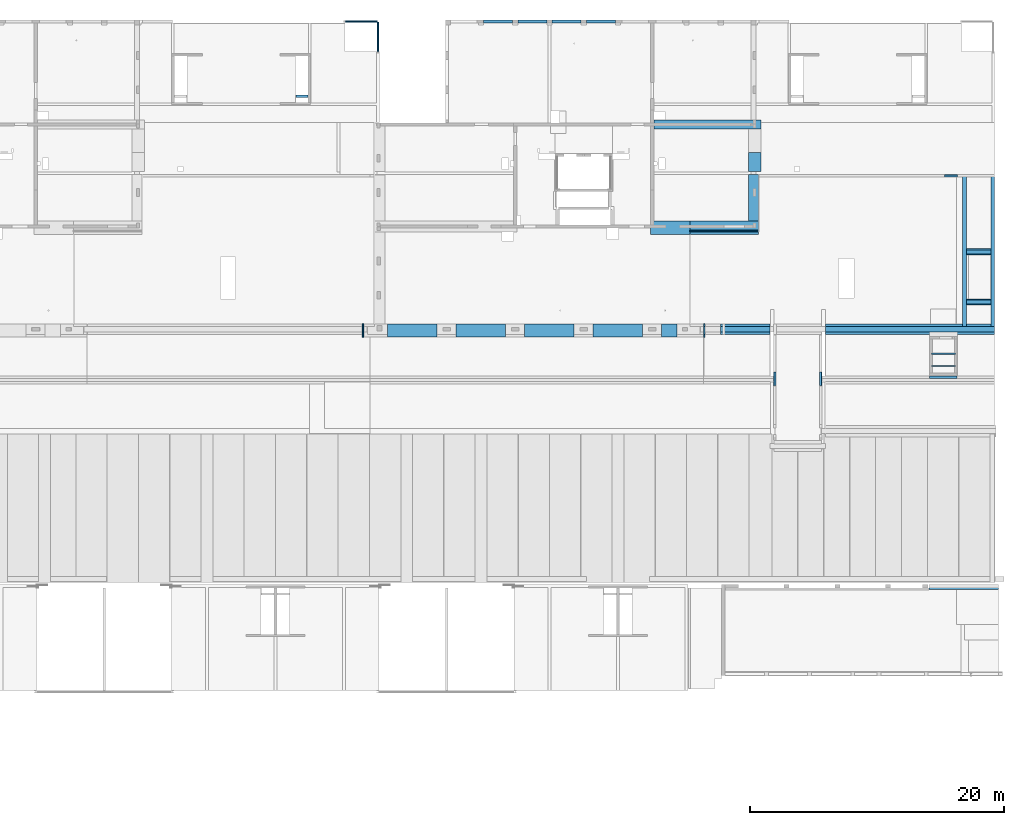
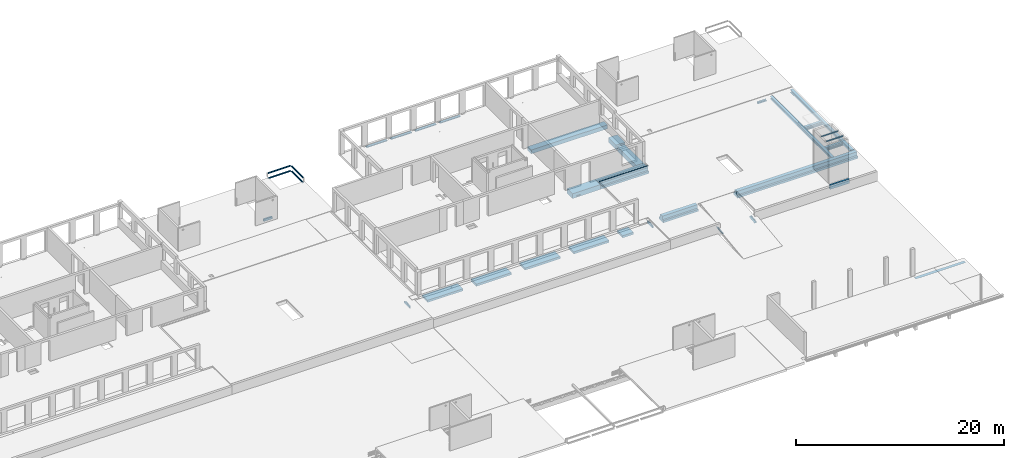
# One storey, part 13 of 36: 34 beams.
"""IFC2X3 building model written with IfcOpenShell, lengths in millimetres."""

from ifc_helpers import new_model, entity, si_unit, converted_unit, derived_unit, direction, frame, frame_2d, origin, origin_2d_with_axis, place, context, subcontext, project, spatial, polyline, circle_curve, parameter, trimmed, segment, composite_curve, rectangle, i_section, outline, extrude, boolean, source, transform, mapped, material, type_object, type_shapes, element, save


model = new_model("IFC2X3")

# Units and contexts
model_context = context("Model", 3, precision=0.01, world=origin(), true_north=direction((6.12303176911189e-17, 1.0)))
body_context = subcontext(model_context, "Body", "Model", "MODEL_VIEW")
ifc_project = project(units=[si_unit("LENGTHUNIT", "METRE", prefix="MILLI"), si_unit("AREAUNIT", "SQUARE_METRE"), si_unit("VOLUMEUNIT", "CUBIC_METRE"), converted_unit("PLANEANGLEUNIT", "DEGREE", entity("IfcRatioMeasure", 0.0174532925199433), si_unit("PLANEANGLEUNIT", "RADIAN"), dimensions=[0, 0, 0, 0, 0, 0, 0]), si_unit("MASSUNIT", "GRAM", prefix="KILO"), derived_unit("MASSDENSITYUNIT", [(si_unit("MASSUNIT", "GRAM", prefix="KILO"), 1), (si_unit("LENGTHUNIT", "METRE"), -3)]), si_unit("TIMEUNIT", "SECOND"), si_unit("FREQUENCYUNIT", "HERTZ"), si_unit("THERMODYNAMICTEMPERATUREUNIT", "DEGREE_CELSIUS"), derived_unit("THERMALTRANSMITTANCEUNIT", [(si_unit("MASSUNIT", "GRAM", prefix="KILO"), 1), (si_unit("THERMODYNAMICTEMPERATUREUNIT", "KELVIN"), -1), (si_unit("TIMEUNIT", "SECOND"), -3)]), derived_unit("VOLUMETRICFLOWRATEUNIT", [(si_unit("LENGTHUNIT", "METRE"), 3), (si_unit("TIMEUNIT", "SECOND"), -1)]), si_unit("ELECTRICCURRENTUNIT", "AMPERE"), si_unit("ELECTRICVOLTAGEUNIT", "VOLT"), si_unit("POWERUNIT", "WATT"), si_unit("FORCEUNIT", "NEWTON", prefix="KILO"), si_unit("ILLUMINANCEUNIT", "LUX"), si_unit("LUMINOUSFLUXUNIT", "LUMEN"), si_unit("LUMINOUSINTENSITYUNIT", "CANDELA"), derived_unit("USERDEFINED", [(si_unit("MASSUNIT", "GRAM", prefix="KILO"), -1), (si_unit("LENGTHUNIT", "METRE"), -2), (si_unit("TIMEUNIT", "SECOND"), 3), (si_unit("LUMINOUSFLUXUNIT", "LUMEN"), 1)]), derived_unit("LINEARVELOCITYUNIT", [(si_unit("LENGTHUNIT", "METRE"), 1), (si_unit("TIMEUNIT", "SECOND"), -1)]), si_unit("PRESSUREUNIT", "PASCAL"), derived_unit("USERDEFINED", [(si_unit("LENGTHUNIT", "METRE"), -2), (si_unit("MASSUNIT", "GRAM", prefix="KILO"), 1), (si_unit("TIMEUNIT", "SECOND"), -2)])], contexts=[model_context])

# Site, building, storey
site_placement = place(None, origin())
site = spatial("IfcSite", under=ifc_project, at=site_placement, Name="Default", CompositionType="ELEMENT")
building_placement = place(site_placement, origin())
building = spatial("IfcBuilding", under=site, at=building_placement, Name="niet gebruiken", CompositionType="ELEMENT")
storey_placement = place(building_placement, frame((0.0, 0.0, 12600.0)))
storey = spatial("IfcBuildingStorey", under=building, at=storey_placement, Name="04 vierde verdieping", CompositionType="ELEMENT", Elevation=12600.0)

# Beams
ifc_material_1 = material(Name="NLRS_f2_beton prefab")
beam_type_1 = type_object("IfcBeamType", Name="NLRS_28.11_SF_WPB_prefabbeton balk dubbele sponning_gen:800x660/200x410/200x410", PredefinedType="BEAM")
beam_1_placement = place(storey_placement, frame((110845.0, 28881.0, -240.0)))
element("IfcBeam", 1, at=beam_1_placement, inside=storey, type_object=beam_type_1, material=ifc_material_1, Name="NLRS_28.11_SF_WPB_prefabbeton balk dubbele sponning_gen:800x660/200x410/200x410", ObjectType="NLRS_28.11_SF_WPB_prefabbeton balk dubbele sponning_gen:800x660/200x410/200x410", context=body_context, shape_type="SweptSolid", body=[
    extrude(outline(polyline([(40.0, -400.0), (290.0, -400.0), (290.0, 400.0), (40.0, 400.0), (40.0, 200.0), (-370.0, 200.0), (-370.0, -200.0), (40.0, -200.0), (40.0, -400.0)])), frame((0.0, 0.0, -370.0), z_axis=(1.0, 0.0, 0.0), x_axis=(0.0, 0.0, -1.0)), (0.0, 0.0, 1.0), 13355.0),
])
beam_2_placement = place(storey_placement, frame((102600.0, 28881.0, -240.0)))
element("IfcBeam", 2, at=beam_2_placement, inside=storey, type_object=beam_type_1, material=ifc_material_1, Name="NLRS_28.11_SF_WPB_prefabbeton balk dubbele sponning_gen:800x660/200x410/200x410", ObjectType="NLRS_28.11_SF_WPB_prefabbeton balk dubbele sponning_gen:800x660/200x410/200x410", context=body_context, shape_type="SweptSolid", body=[
    extrude(outline(polyline([(40.0, -400.0), (290.0, -400.0), (290.0, 400.0), (40.0, 400.0), (40.0, 200.0), (-370.0, 200.0), (-370.0, -200.0), (40.0, -200.0), (40.0, -400.0)])), frame((0.0, 0.0, -370.0), z_axis=(1.0, 0.0, 0.0), x_axis=(0.0, 0.0, -1.0)), (0.0, 0.0, 1.0), 3900.00000000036),
])
ifc_material_2 = material(Name="NLRS_f2_beton ihwg")
beam_type_2 = type_object("IfcBeamType", Name="NLRS_28.11_SF_WPB_betonbalk ihwg enkele sponning_gen:1050x560/200x310", PredefinedType="BEAM")
beam_3_placement = place(storey_placement, frame((100175.0, 36881.0, -340.0)))
element("IfcBeam", 3, at=beam_3_placement, inside=storey, type_object=beam_type_2, material=ifc_material_2, Name="NLRS_28.11_SF_WPB_betonbalk ihwg enkele sponning_gen:1050x560/200x310", ObjectType="NLRS_28.11_SF_WPB_betonbalk ihwg enkele sponning_gen:1050x560/200x310", context=body_context, shape_type="SweptSolid", body=[
    extrude(outline(polyline([(20.0, -416.666666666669), (270.0, -416.666666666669), (270.0, 633.33333333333), (-290.0, 633.333333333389), (-290.0, -216.666666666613), (20.0, -216.666666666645), (20.0, -416.666666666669)])), frame((0.0, -108.333333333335, -290.0), z_axis=(1.0, 0.0, 0.0), x_axis=(0.0, 0.0, -1.0)), (0.0, 0.0, 1.0), 5399.99999999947),
])
beam_4_placement = place(storey_placement, frame((74460.0, 28781.0, -340.0), z_axis=(0.0, 0.0, 1.0), x_axis=(-1.0, 0.0, 0.0)))
element("IfcBeam", 4, at=beam_4_placement, inside=storey, type_object=beam_type_2, material=ifc_material_2, Name="NLRS_28.11_SF_WPB_betonbalk ihwg enkele sponning_gen:1050x560/200x310", ObjectType="NLRS_28.11_SF_WPB_betonbalk ihwg enkele sponning_gen:1050x560/200x310", context=body_context, shape_type="SweptSolid", body=[
    extrude(outline(polyline([(-43.7491141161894, -480.000219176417), (206.250885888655, -480.000219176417), (206.250885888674, 569.999780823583), (-43.7491141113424, 569.999780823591), (-43.7491141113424, 165.001534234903), (-118.749114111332, 165.001534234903), (-118.74911411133, -255.000219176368), (-43.7491141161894, -255.000219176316), (-43.7491141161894, -480.000219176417)])), frame((0.0, -44.9997808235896, -353.749114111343), z_axis=(1.0, 0.0, 0.0), x_axis=(0.0, 0.0, -1.0)), (0.0, 0.0, 1.0), 100.000000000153),
])
beam_5_placement = place(storey_placement, frame((101360.0, 28781.0, -340.0), z_axis=(0.0, 0.0, 1.0), x_axis=(-1.0, 0.0, 0.0)))
element("IfcBeam", 5, at=beam_5_placement, inside=storey, type_object=beam_type_2, material=ifc_material_2, Name="NLRS_28.11_SF_WPB_betonbalk ihwg enkele sponning_gen:1050x560/200x310", ObjectType="NLRS_28.11_SF_WPB_betonbalk ihwg enkele sponning_gen:1050x560/200x310", context=body_context, shape_type="SweptSolid", body=[
    extrude(outline(polyline([(-43.7500000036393, -531.250000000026), (206.250000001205, -531.250000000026), (206.250000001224, 518.749999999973), (-43.7499999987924, 518.749999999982), (-43.7499999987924, 318.749999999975), (-118.749999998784, 318.749999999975), (-118.749999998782, -306.249999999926), (-43.7500000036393, -306.249999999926), (-43.7500000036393, -531.250000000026)])), frame((0.0, 6.25000000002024, -353.749999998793), z_axis=(1.0, 0.0, 0.0), x_axis=(0.0, 0.0, -1.0)), (0.0, 0.0, 1.0), 100.000000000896),
])
beam_type_3 = type_object("IfcBeamType", Name="NLRS_28.11_SF_WPB_betonbalk ihwg recht_gen:125x250", PredefinedType="BEAM")
beam_6_placement = place(storey_placement, frame((100175.0, 36618.5, -90.0)))
element("IfcBeam", 6, at=beam_6_placement, inside=storey, type_object=beam_type_3, material=ifc_material_2, Name="NLRS_28.11_SF_WPB_betonbalk ihwg recht_gen:125x250", ObjectType="NLRS_28.11_SF_WPB_betonbalk ihwg recht_gen:125x250", context=body_context, shape_type="SweptSolid", body=[
    extrude(rectangle(XDim=189.999999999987, YDim=125.000000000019, at=frame_2d((-1.19158016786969e-11, 4.33075797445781e-12), x_axis=(1.0, 0.0))), frame((0.0, 0.0, -155.0), z_axis=(1.0, 0.0, 0.0), x_axis=(0.0, 0.0, -1.0)), (0.0, 0.0, 1.0), 5399.99999999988),
])
beam_type_4 = type_object("IfcBeamType", Name="NLRS_28.11_SF_WPB_betonbalk ihwg recht_gen:700x450", PredefinedType="BEAM")
beam_7_placement = place(storey_placement, frame((97200.0, 45031.0, -340.0)))
element("IfcBeam", 7, at=beam_7_placement, inside=storey, type_object=beam_type_4, material=ifc_material_2, Name="NLRS_28.11_SF_WPB_betonbalk ihwg recht_gen:700x450", ObjectType="NLRS_28.11_SF_WPB_betonbalk ihwg recht_gen:700x450", context=body_context, shape_type="SweptSolid", body=[
    extrude(rectangle(XDim=449.999999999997, YDim=700.000000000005, at=frame_2d((0.0, 2.16573425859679e-11), x_axis=(1.0, 0.0))), frame((125.0, 0.0, -225.0), z_axis=(1.0, 0.0, 0.0), x_axis=(0.0, 0.0, -1.0)), (0.0, 0.0, 1.0), 8450.00000000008),
])
beam_type_5 = type_object("IfcBeamType", Name="NLRS_28.11_SF_WPB_betonbalk ihwg recht_gen:1050x560", PredefinedType="BEAM")
beam_8_placement = place(storey_placement, frame((97075.0, 36881.0, -340.0)))
element("IfcBeam", 8, at=beam_8_placement, inside=storey, type_object=beam_type_5, material=ifc_material_2, Name="NLRS_28.11_SF_WPB_betonbalk ihwg recht_gen:1050x560", ObjectType="NLRS_28.11_SF_WPB_betonbalk ihwg recht_gen:1050x560", context=body_context, shape_type="CSG", body=[
    boolean("DIFFERENCE", extrude(rectangle(XDim=559.999999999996, YDim=1050.0, at=frame_2d((6.48014975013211e-12, 1.08002495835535e-12), x_axis=(0.0, 1.0))), frame((0.0, 0.0, -280.0), z_axis=(1.0, 0.0, 0.0), x_axis=(0.0, 1.0, 0.0)), (0.0, 0.0, 1.0), 3099.99999999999), extrude(rectangle(XDim=100.000000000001, YDim=440.000000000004, at=frame_2d((-1.08357767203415e-12, 0.0), x_axis=(1.0, 0.0))), frame((695.0, -525.0, -400.0), z_axis=(0.0, 1.0, 0.0), x_axis=(0.0, 0.0, 1.0)), (0.0, 0.0, 1.0), 1050.0)),
])
beam_type_6 = type_object("IfcBeamType", Name="800x810", PredefinedType="BEAM", material=ifc_material_2)
beam_9_placement = place(storey_placement, frame((105175.0, 37406.0, -90.0), z_axis=(0.0, 0.0, 1.0), x_axis=(0.0, 1.0, 0.0)))
element("IfcBeam", 9, at=beam_9_placement, inside=storey, type_object=beam_type_6, material=ifc_material_2, Name="NLRS_28.11_SF_WPB_betonbalk ihwg recht_gen:800x810", ObjectType="NLRS_28.11_SF_WPB_betonbalk ihwg recht_gen:800x810", context=body_context, shape_type="SweptSolid", body=[
    extrude(rectangle(XDim=559.999999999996, YDim=800.000000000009, at=frame_2d((1.08002495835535e-12, -8.66862137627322e-12), x_axis=(1.0, 0.0))), frame((0.0, 0.0, -530.0), z_axis=(1.0, 0.0, 0.0), x_axis=(0.0, 0.0, -1.0)), (0.0, 0.0, 1.0), 3654.99999999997),
])
beam_type_7 = type_object("IfcBeamType", Name="NLRS_28.11_SF_WPB_betonbalk ihwg recht_gen:1000x560", PredefinedType="BEAM")
beam_10_placement = place(storey_placement, frame((105275.0, 41311.0, -340.0), z_axis=(0.0, 0.0, 1.0), x_axis=(0.0, 1.0, 0.0)))
element("IfcBeam", 10, at=beam_10_placement, inside=storey, type_object=beam_type_7, material=ifc_material_2, Name="NLRS_28.11_SF_WPB_betonbalk ihwg recht_gen:1000x560", ObjectType="NLRS_28.11_SF_WPB_betonbalk ihwg recht_gen:1000x560", context=body_context, shape_type="SweptSolid", body=[
    extrude(rectangle(XDim=559.999999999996, YDim=999.999999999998, at=frame_2d((-1.08002495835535e-12, -8.66862137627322e-12), x_axis=(1.0, 0.0))), frame((0.0, 0.0, -280.0), z_axis=(1.0, 0.0, 0.0), x_axis=(0.0, 0.0, -1.0)), (0.0, 0.0, 1.0), 1495.00000000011),
])
ifc_material_3 = material(Name="NLRS_h2_staal")
beam_type_8 = type_object("IfcBeamType", Name="NLRS_28.11_SF_WPB_stalen ligger hoekprofiel gelijkzijdig_gen:ligger gelijzijdig hoekprofiel LEQU_200x200x15", PredefinedType="BEAM")
beam_11_placement = place(storey_placement, frame((120225.0, 40968.4999999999, -460.0)))
element("IfcBeam", 11, at=beam_11_placement, inside=storey, type_object=beam_type_8, material=ifc_material_3, Name="NLRS_28.11_SF_WPB_stalen ligger hoekprofiel gelijkzijdig_gen:ligger gelijzijdig hoekprofiel LEQU_200x200x15", ObjectType="NLRS_28.11_SF_WPB_stalen ligger hoekprofiel gelijkzijdig_gen:ligger gelijzijdig hoekprofiel LEQU_200x200x15", context=body_context, shape_type="SweptSolid", body=[
    extrude(outline(composite_curve([segment(polyline([(66.3333333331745, -126.666666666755), (73.3333333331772, -126.666666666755)]), True, "CONTINUOUS"), segment(polyline([(73.3333333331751, -126.666666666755), (73.3333333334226, 73.3333333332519)]), True, "CONTINUOUS"), segment(polyline([(73.3333333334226, 73.3333333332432), (-126.666666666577, 73.3333333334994)]), True, "CONTINUOUS"), segment(polyline([(-126.666666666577, 73.3333333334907), (-126.666666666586, 66.3333333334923)]), True, "CONTINUOUS"), segment(trimmed(circle_curve(frame_2d((-118.666666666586, 66.3333333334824), x_axis=(-1.0, 0.0)), 7.9999999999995), [parameter(0.0)], [parameter(90.0000000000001)], True, "PARAMETER"), True, "CONTINUOUS"), segment(polyline([(-118.666666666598, 58.3333333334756), (42.3333333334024, 58.333333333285)]), True, "CONTINUOUS"), segment(trimmed(circle_curve(frame_2d((42.3333333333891, 42.3333333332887), x_axis=(0.0, 1.0)), 15.9999999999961), [parameter(269.999999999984)], [parameter(0.0)], True, "PARAMETER"), False, "CONTINUOUS"), segment(polyline([(58.3333333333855, 42.3333333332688), (58.3333333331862, -118.666666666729)]), True, "CONTINUOUS"), segment(trimmed(circle_curve(frame_2d((66.3333333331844, -118.666666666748), x_axis=(-1.0, 0.0)), 7.99999999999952), [parameter(0.0)], [parameter(90.0000000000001)], True, "PARAMETER"), True, "CONTINUOUS")], self_intersect=False)), frame((0.0, 19.1666666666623, -126.666666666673), z_axis=(1.0, 0.0, 0.0), x_axis=(0.0, 0.0, -1.0)), (0.0, 0.0, 1.0), 1025.00000000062),
])
beam_type_9 = type_object("IfcBeamType", Name="ligger stripstaal RECT_355x12", PredefinedType="BEAM", material=ifc_material_3)
shared_shape_1 = source(origin(), body_context, "Body", "SweptSolid", [
    extrude(rectangle(XDim=5509.99999999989, YDim=355.0, at=origin_2d_with_axis()), frame((0.0, 0.0, -6.0), z_axis=(0.0, 0.0, 1.0), x_axis=(-1.0, 0.0, 0.0)), (0.0, 0.0, 1.0), 12.0),
    extrude(rectangle(XDim=5509.99999999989, YDim=355.0, at=origin_2d_with_axis()), frame((0.0, 0.0, -6.0), z_axis=(0.0, 0.0, 1.0), x_axis=(-1.0, 0.0, 0.0)), (0.0, 0.0, 1.0), 12.0),
])
type_shapes(beam_type_9, [shared_shape_1])
beam_12_placement = place(storey_placement, frame((121755.0, 8553.49999999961, -1026.0)))
element("IfcBeam", 12, at=beam_12_placement, inside=storey, type_object=beam_type_9, material=ifc_material_3, Name="NLRS_28.11_SF_WPB_stalen ligger stripstaal_gen:ligger stripstaal RECT_355x12", ObjectType="ligger stripstaal RECT_355x12", context=body_context, shape_type="MappedRepresentation", body=[
    mapped(shared_shape_1, transform((0.0, 0.0, 0.0), scale=1.0)),
])
beam_type_10 = type_object("IfcBeamType", Name="NLRS_28.11_SF_WPB_betonbalk ihwg recht_gen:180x250", PredefinedType="BEAM")
beam_13_placement = place(storey_placement, frame((69105.0, 47236.0, -90.0)))
element("IfcBeam", 13, at=beam_13_placement, inside=storey, type_object=beam_type_10, material=ifc_material_2, Name="NLRS_28.11_SF_WPB_betonbalk ihwg recht_gen:180x250", ObjectType="NLRS_28.11_SF_WPB_betonbalk ihwg recht_gen:180x250", context=body_context, shape_type="SweptSolid", body=[
    extrude(rectangle(XDim=249.999999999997, YDim=180.000000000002, at=frame_2d((1.08002495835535e-12, -4.33431068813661e-12), x_axis=(1.0, 0.0))), frame((0.0, 0.0, -125.0), z_axis=(1.0, 0.0, 0.0), x_axis=(0.0, 0.0, -1.0)), (0.0, 0.0, 1.0), 970.000000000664),
])
beam_type_11 = type_object("IfcBeamType", Name="250x100", PredefinedType="BEAM", material=ifc_material_2)
shared_shape_2 = source(origin(), body_context, "Body", "SweptSolid", [
    extrude(rectangle(XDim=2289.99999999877, YDim=249.999999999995, at=frame_2d((-8.64019966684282e-12, 4.33431068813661e-12), x_axis=(1.0, 0.0))), frame((85050.0, 53131.0, 12160.0)), (0.0, 0.0, 1.0), 100.000063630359),
    extrude(rectangle(XDim=2290.00000000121, YDim=249.999999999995, at=frame_2d((0.0, -4.33431068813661e-12), x_axis=(1.0, 0.0))), frame((93150.0, 53131.0, 12160.0), z_axis=(0.0, 0.0, 1.0), x_axis=(-1.0, 0.0, 0.0)), (0.0, 0.0, 1.0), 100.000063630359),
    extrude(rectangle(XDim=2289.99999999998, YDim=249.999999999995, at=frame_2d((8.64019966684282e-12, -4.33431068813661e-12), x_axis=(1.0, 0.0))), frame((90450.0, 53131.0, 12160.0), z_axis=(0.0, 0.0, 1.0), x_axis=(-1.0, 0.0, 0.0)), (0.0, 0.0, 1.0), 100.000063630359),
    extrude(rectangle(XDim=2290.0, YDim=249.999999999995, at=frame_2d((0.0, 4.33431068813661e-12), x_axis=(1.0, 0.0))), frame((87750.0, 53131.0, 12160.0), z_axis=(0.0, 0.0, 1.0), x_axis=(-1.0, 0.0, 0.0)), (0.0, 0.0, 1.0), 100.000063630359),
])
type_shapes(beam_type_11, [shared_shape_2])
beam_14_placement = place(storey_placement, frame((0.0, 0.0, -12600.0)))
element("IfcBeam", 14, at=beam_14_placement, inside=storey, type_object=beam_type_11, material=ifc_material_2, Name="NLRS_28.11_SF_WPB_betonbalk ihwg recht_gen:250x100", ObjectType="250x100", context=body_context, shape_type="MappedRepresentation", body=[
    mapped(shared_shape_2, transform((0.0, 0.0, 0.0), scale=1.0)),
])
beam_type_12 = type_object("IfcBeamType", Name="NLRS_28.11_SF_WPB_stalen ligger HEA_gen:ligger HEA 120", PredefinedType="BEAM")
beam_15_placement = place(storey_placement, frame((73000.0, 53188.0, -260.0)))
element("IfcBeam", 15, at=beam_15_placement, inside=storey, type_object=beam_type_12, material=ifc_material_3, Name="NLRS_28.11_SF_WPB_stalen ligger HEA_gen:ligger HEA 120", ObjectType="NLRS_28.11_SF_WPB_stalen ligger HEA_gen:ligger HEA 120", context=body_context, shape_type="SweptSolid", body=[
    extrude(i_section(OverallWidth=119.999999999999, OverallDepth=114.0, WebThickness=5.00000000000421, FlangeThickness=8.00000000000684, FilletRadius=11.9999999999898, at=frame_2d((-2.16360263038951e-12, -1.29922739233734e-11), x_axis=(1.0, 0.0))), frame((0.0, -57.0, 0.0), z_axis=(1.0, 0.0, 0.0), x_axis=(0.0, 0.0, -1.0)), (0.0, 0.0, 1.0), 2515.00000000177),
])
beam_16_placement = place(storey_placement, frame((75518.0, 50755.8950183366, -260.0), z_axis=(0.0, 0.0, 1.0), x_axis=(0.0, 1.0, 0.0)))
element("IfcBeam", 16, at=beam_16_placement, inside=storey, type_object=beam_type_12, material=ifc_material_3, Name="NLRS_28.11_SF_WPB_stalen ligger HEA_gen:ligger HEA 120", ObjectType="NLRS_28.11_SF_WPB_stalen ligger HEA_gen:ligger HEA 120", context=body_context, shape_type="SweptSolid", body=[
    extrude(i_section(OverallWidth=119.999999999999, OverallDepth=114.0, WebThickness=4.99999999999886, FlangeThickness=7.99999999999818, FilletRadius=11.9999999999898, at=frame_2d((-2.16715534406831e-12, -4.33431068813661e-12), x_axis=(1.0, 0.0))), frame((0.0, -57.0, 0.0), z_axis=(1.0, 0.0, 0.0), x_axis=(0.0, 0.0, -1.0)), (0.0, 0.0, 1.0), 2318.10498166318),
])
beam_17_placement = place(storey_placement, frame((75518.0, 50766.0007019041, 340.0), z_axis=(0.0, 0.0, 1.0), x_axis=(0.0, 1.0, 0.0)))
element("IfcBeam", 17, at=beam_17_placement, inside=storey, type_object=beam_type_12, material=ifc_material_3, Name="NLRS_28.11_SF_WPB_stalen ligger HEA_gen:ligger HEA 120", ObjectType="NLRS_28.11_SF_WPB_stalen ligger HEA_gen:ligger HEA 120", context=body_context, shape_type="SweptSolid", body=[
    extrude(i_section(OverallWidth=119.999999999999, OverallDepth=114.0, WebThickness=4.99999999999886, FlangeThickness=7.99999999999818, FilletRadius=11.9999999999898, at=frame_2d((0.0, -4.33431068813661e-12), x_axis=(1.0, 0.0))), frame((0.0, -57.0, 0.0), z_axis=(1.0, 0.0, 0.0), x_axis=(0.0, 0.0, -1.0)), (0.0, 0.0, 1.0), 2307.99929809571),
])
beam_18_placement = place(storey_placement, frame((73000.0, 53188.0, 340.0)))
element("IfcBeam", 18, at=beam_18_placement, inside=storey, type_object=beam_type_12, material=ifc_material_3, Name="NLRS_28.11_SF_WPB_stalen ligger HEA_gen:ligger HEA 120", ObjectType="NLRS_28.11_SF_WPB_stalen ligger HEA_gen:ligger HEA 120", context=body_context, shape_type="SweptSolid", body=[
    extrude(i_section(OverallWidth=119.999999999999, OverallDepth=114.0, WebThickness=5.00000000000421, FlangeThickness=8.00000000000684, FilletRadius=11.9999999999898, at=frame_2d((0.0, -4.33075797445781e-12), x_axis=(1.0, 0.0))), frame((0.0, -57.0, 0.0), z_axis=(1.0, 0.0, 0.0), x_axis=(0.0, 0.0, -1.0)), (0.0, 0.0, 1.0), 2515.00000000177),
])
beam_type_13 = type_object("IfcBeamType", Name="NLRS_28.11_SF_WPB_stalen ligger HEB_gen:ligger HEB 100", PredefinedType="BEAM")
beam_19_placement = place(storey_placement, frame((119200.0, 26940.0, 4290.0)))
element("IfcBeam", 19, at=beam_19_placement, inside=storey, type_object=beam_type_13, material=ifc_material_3, Name="NLRS_28.11_SF_WPB_stalen ligger HEB_gen:ligger HEB 100", ObjectType="NLRS_28.11_SF_WPB_stalen ligger HEB_gen:ligger HEB 100", context=body_context, shape_type="SweptSolid", body=[
    extrude(i_section(OverallWidth=100.000000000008, OverallDepth=100.000000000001, WebThickness=5.99999999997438, FlangeThickness=10.0000000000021, FilletRadius=12.0000000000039, at=frame_2d((1.08357767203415e-12, 4.33431068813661e-12), x_axis=(0.0, 1.0))), frame((0.0, 0.0, 50.0), z_axis=(1.0, 0.0, 0.0), x_axis=(0.0, 0.0, -1.0)), (0.0, 0.0, 1.0), 1900.0),
])
beam_20_placement = place(storey_placement, frame((119200.0, 25990.0, 4290.0)))
element("IfcBeam", 20, at=beam_20_placement, inside=storey, type_object=beam_type_13, material=ifc_material_3, Name="NLRS_28.11_SF_WPB_stalen ligger HEB_gen:ligger HEB 100", ObjectType="NLRS_28.11_SF_WPB_stalen ligger HEB_gen:ligger HEB 100", context=body_context, shape_type="SweptSolid", body=[
    extrude(i_section(OverallWidth=100.000000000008, OverallDepth=100.000000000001, WebThickness=5.99999999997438, FlangeThickness=10.0000000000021, FilletRadius=12.0000000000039, at=frame_2d((1.08357767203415e-12, 0.0), x_axis=(0.0, 1.0))), frame((0.0, 0.0, 50.0), z_axis=(1.0, 0.0, 0.0), x_axis=(0.0, 0.0, -1.0)), (0.0, 0.0, 1.0), 1900.0),
])
beam_type_14 = type_object("IfcBeamType", Name="NLRS_28.11_SF_WPB_betonbalk ihwg recht_gen:1050x250", PredefinedType="BEAM")
beam_21_placement = place(storey_placement, frame((97950.0, 28781.0, -650.0)))
element("IfcBeam", 21, at=beam_21_placement, inside=storey, type_object=beam_type_14, material=ifc_material_2, Name="NLRS_28.11_SF_WPB_betonbalk ihwg recht_gen:1050x250", ObjectType="NLRS_28.11_SF_WPB_betonbalk ihwg recht_gen:1050x250", context=body_context, shape_type="SweptSolid", body=[
    extrude(rectangle(XDim=249.999999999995, YDim=1050.0, at=frame_2d((1.08713038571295e-12, 0.0), x_axis=(1.0, 0.0))), frame((0.0, 0.0, -125.0), z_axis=(1.0, 0.0, 0.0), x_axis=(0.0, 0.0, -1.0)), (0.0, 0.0, 1.0), 1200.00000000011),
])
for number, where, name in (
    (22, (92550.0, 28781.0, -650.0), "NLRS_28.11_SF_WPB_betonbalk ihwg recht_gen:1050x250"),
    (23, (87150.0, 28781.0, -650.0), "NLRS_28.11_SF_WPB_betonbalk ihwg recht_gen:1050x250"),
    (24, (81750.0, 28781.0, -650.0), "NLRS_28.11_SF_WPB_betonbalk ihwg recht_gen:1050x250"),
):
    element("IfcBeam", number, at=place(storey_placement, frame(where)), inside=storey, type_object=beam_type_14, material=ifc_material_2, Name=name, ObjectType="NLRS_28.11_SF_WPB_betonbalk ihwg recht_gen:1050x250", context=body_context, shape_type="SweptSolid", body=[
        extrude(rectangle(XDim=249.999999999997, YDim=1050.0, at=frame_2d((1.08002495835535e-12, 1.08002495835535e-11), x_axis=(1.0, 0.0))), frame((0.0, 0.0, -125.0), z_axis=(1.0, 0.0, 0.0), x_axis=(0.0, 0.0, -1.0)), (0.0, 0.0, 1.0), 3900.0),
    ])
beam_22_placement = place(storey_placement, frame((76350.0, 28781.0, -650.0)))
element("IfcBeam", 25, at=beam_22_placement, inside=storey, type_object=beam_type_14, material=ifc_material_2, Name="NLRS_28.11_SF_WPB_betonbalk ihwg recht_gen:1050x250", ObjectType="NLRS_28.11_SF_WPB_betonbalk ihwg recht_gen:1050x250", context=body_context, shape_type="SweptSolid", body=[
    extrude(rectangle(XDim=249.999999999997, YDim=1050.0, at=frame_2d((1.08002495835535e-12, 1.08002495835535e-11), x_axis=(1.0, 0.0))), frame((0.0, 0.0, -125.0), z_axis=(1.0, 0.0, 0.0), x_axis=(0.0, 0.0, -1.0)), (0.0, 0.0, 1.0), 3900.00000000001),
])
beam_type_15 = type_object("IfcBeamType", Name="NLRS_28.11_SF_WPB_prefabbeton balk recht_gen:200x490", PredefinedType="BEAM")
beam_23_placement = place(storey_placement, frame((119075.0, 25101.0, -160.0)))
element("IfcBeam", 26, at=beam_23_placement, inside=storey, type_object=beam_type_15, material=ifc_material_1, Name="NLRS_28.11_SF_WPB_prefabbeton balk recht_gen:200x490", ObjectType="NLRS_28.11_SF_WPB_prefabbeton balk recht_gen:200x490", context=body_context, shape_type="SweptSolid", body=[
    extrude(rectangle(XDim=489.000000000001, YDim=200.000000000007, at=frame_2d((0.0, 4.33431068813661e-12), x_axis=(1.0, 0.0))), frame((0.0, 0.0, -245.499999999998), z_axis=(1.0, 0.0, 0.0), x_axis=(0.0, 0.0, -1.0)), (0.0, 0.0, 1.0), 2150.0),
])
beam_type_16 = type_object("IfcBeamType", Name="NLRS_28.11_SF_WPB_stalen ligger HEA_gen:ligger HEA 320", PredefinedType="BEAM")
beam_24_placement = place(storey_placement, frame((121970.0, 34975.0, -335.0)))
element("IfcBeam", 27, at=beam_24_placement, inside=storey, type_object=beam_type_16, material=ifc_material_3, Name="NLRS_28.11_SF_WPB_stalen ligger HEA_gen:ligger HEA 320", ObjectType="NLRS_28.11_SF_WPB_stalen ligger HEA_gen:ligger HEA 320", context=body_context, shape_type="SweptSolid", body=[
    extrude(i_section(OverallWidth=300.000000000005, OverallDepth=310.000000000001, WebThickness=8.99999999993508, FlangeThickness=15.5000000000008, FilletRadius=26.9999999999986, at=frame_2d((1.08002495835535e-12, -4.33431068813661e-12), x_axis=(0.0, 1.0))), frame((0.0, 0.0, -155.0), z_axis=(1.0, 0.0, 0.0), x_axis=(0.0, 0.0, -1.0)), (0.0, 0.0, 1.0), 1929.9999999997),
])
beam_25_placement = place(storey_placement, frame((121970.0, 31025.0, -335.0)))
element("IfcBeam", 28, at=beam_25_placement, inside=storey, type_object=beam_type_16, material=ifc_material_3, Name="NLRS_28.11_SF_WPB_stalen ligger HEA_gen:ligger HEA 320", ObjectType="NLRS_28.11_SF_WPB_stalen ligger HEA_gen:ligger HEA 320", context=body_context, shape_type="SweptSolid", body=[
    extrude(i_section(OverallWidth=300.000000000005, OverallDepth=310.000000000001, WebThickness=8.99999999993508, FlangeThickness=15.5000000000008, FilletRadius=26.9999999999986, at=frame_2d((1.08002495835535e-12, 0.0), x_axis=(0.0, 1.0))), frame((0.0, 0.0, -155.0), z_axis=(1.0, 0.0, 0.0), x_axis=(0.0, 0.0, -1.0)), (0.0, 0.0, 1.0), 1929.9999999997),
])
beam_26_placement = place(storey_placement, frame((124050.0, 41041.0, -335.0), z_axis=(0.0, 0.0, 1.0), x_axis=(0.0, -1.0, 0.0)))
element("IfcBeam", 29, at=beam_26_placement, inside=storey, type_object=beam_type_16, material=ifc_material_3, Name="NLRS_28.11_SF_WPB_stalen ligger HEA_gen:ligger HEA 320", ObjectType="NLRS_28.11_SF_WPB_stalen ligger HEA_gen:ligger HEA 320", context=body_context, shape_type="SweptSolid", body=[
    extrude(i_section(OverallWidth=300.000000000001, OverallDepth=310.000000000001, WebThickness=9.00000000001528, FlangeThickness=15.4999999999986, FilletRadius=26.9999999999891, at=frame_2d((1.09423581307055e-12, 0.0), x_axis=(0.0, 1.0))), frame((0.0, 0.0, -155.0), z_axis=(1.0, 0.0, 0.0), x_axis=(0.0, 0.0, -1.0)), (0.0, 0.0, 1.0), 11939.9999999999),
])
beam_27_placement = place(storey_placement, frame((121820.0, 41041.0, -335.0), z_axis=(0.0, 0.0, 1.0), x_axis=(0.0, -1.0, 0.0)))
element("IfcBeam", 30, at=beam_27_placement, inside=storey, type_object=beam_type_16, material=ifc_material_3, Name="NLRS_28.11_SF_WPB_stalen ligger HEA_gen:ligger HEA 320", ObjectType="NLRS_28.11_SF_WPB_stalen ligger HEA_gen:ligger HEA 320", context=body_context, shape_type="SweptSolid", body=[
    extrude(i_section(OverallWidth=300.000000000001, OverallDepth=310.000000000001, WebThickness=9.00000000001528, FlangeThickness=15.4999999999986, FilletRadius=26.9999999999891, at=frame_2d((1.09423581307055e-12, 1.73230318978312e-11), x_axis=(0.0, 1.0))), frame((0.0, 0.0, -155.0), z_axis=(1.0, 0.0, 0.0), x_axis=(0.0, 0.0, -1.0)), (0.0, 0.0, 1.0), 11939.9999999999),
])
beam_type_17 = type_object("IfcBeamType", Name="ligger stripstaal RECT_500x10", PredefinedType="BEAM", material=ifc_material_3)
shared_shape_3 = source(origin(), body_context, "Body", "SweptSolid", [
    extrude(rectangle(XDim=1929.9999999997, YDim=500.0, at=origin_2d_with_axis()), frame((0.0, 0.0, -5.0), z_axis=(0.0, 0.0, 1.0), x_axis=(-1.0, 0.0, 0.0)), (0.0, 0.0, 1.0), 9.99999999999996),
    extrude(rectangle(XDim=1929.9999999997, YDim=500.0, at=origin_2d_with_axis()), frame((0.0, 0.0, -5.0), z_axis=(0.0, 0.0, 1.0), x_axis=(-1.0, 0.0, 0.0)), (0.0, 0.0, 1.0), 9.99999999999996),
])
type_shapes(beam_type_17, [shared_shape_3])
for number, where, name in (
    (31, (122935.0, 34975.0, -650.0), "NLRS_28.11_SF_WPB_stalen ligger stripstaal_gen:ligger stripstaal RECT_500x10"),
    (32, (122935.0, 31025.0, -650.0), "NLRS_28.11_SF_WPB_stalen ligger stripstaal_gen:ligger stripstaal RECT_500x10"),
):
    element("IfcBeam", number, at=place(storey_placement, frame(where)), inside=storey, type_object=beam_type_17, material=ifc_material_3, Name=name, ObjectType="ligger stripstaal RECT_500x10", context=body_context, shape_type="MappedRepresentation", body=[
        mapped(shared_shape_3, transform((0.0, 0.0, 0.0), scale=1.0)),
    ])
beam_type_18 = type_object("IfcBeamType", Name="NLRS_28.11_SF_WPB_stalen ligger hoekprofiel gelijkzijdig_gen:ligger gelijzijdig hoekprofiel LEQU_200x200x16", PredefinedType="BEAM")
beam_28_placement = place(storey_placement, frame((110519.8, 25471.0962909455, -881.5490835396), z_axis=(0.0, -0.123826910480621, 0.992303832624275), x_axis=(0.0, -0.992303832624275, -0.123826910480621)))
element("IfcBeam", 33, at=beam_28_placement, inside=storey, type_object=beam_type_18, material=ifc_material_3, Name="NLRS_28.11_SF_WPB_stalen ligger hoekprofiel gelijkzijdig_gen:ligger gelijzijdig hoekprofiel LEQU_200x200x16", ObjectType="NLRS_28.11_SF_WPB_stalen ligger hoekprofiel gelijkzijdig_gen:ligger gelijzijdig hoekprofiel LEQU_200x200x16", context=body_context, shape_type="SweptSolid", body=[
    extrude(outline(composite_curve([segment(polyline([(66.777777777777, -126.222222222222), (73.7777777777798, -126.222222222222)]), True, "CONTINUOUS"), segment(polyline([(73.7777777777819, -126.222222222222), (73.7777777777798, 73.7777777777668)]), True, "CONTINUOUS"), segment(polyline([(73.7777777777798, 73.7777777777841), (-126.222222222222, 73.7777777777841)]), True, "CONTINUOUS"), segment(polyline([(-126.222222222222, 73.7777777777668), (-126.222222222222, 66.7777777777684)]), True, "CONTINUOUS"), segment(trimmed(circle_curve(frame_2d((-117.222222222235, 66.7777777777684), x_axis=(-1.0, 0.0)), 8.99999999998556), [parameter(0.0)], [parameter(90.0000000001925)], True, "PARAMETER"), True, "CONTINUOUS"), segment(polyline([(-117.222222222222, 57.7777777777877), (39.7777777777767, 57.7777777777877)]), True, "CONTINUOUS"), segment(trimmed(circle_curve(frame_2d((39.7777777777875, 39.7777777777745), x_axis=(0.0, 1.0)), 17.9999999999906), [parameter(269.999999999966)], [parameter(0.0)], True, "PARAMETER"), False, "CONTINUOUS"), segment(polyline([(57.7777777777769, 39.7777777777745), (57.7777777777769, -117.222222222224)]), True, "CONTINUOUS"), segment(trimmed(circle_curve(frame_2d((66.7777777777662, -117.222222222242), x_axis=(-1.0, 0.0)), 8.99999999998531), [parameter(0.0)], [parameter(90.0000000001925)], True, "PARAMETER"), True, "CONTINUOUS")], self_intersect=False)), frame((0.0, -18.5777777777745, -126.222222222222), z_axis=(1.0, 0.0, 0.0), x_axis=(0.0, 0.0, -1.0)), (0.0, 0.0, 1.0), 1075.0),
])
beam_29_placement = place(storey_placement, frame((106830.2, 25471.0962909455, -881.5490835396), z_axis=(0.0, -0.123826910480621, 0.992303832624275), x_axis=(0.0, -0.992303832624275, -0.123826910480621)))
element("IfcBeam", 34, at=beam_29_placement, inside=storey, type_object=beam_type_18, material=ifc_material_3, Name="NLRS_28.11_SF_WPB_stalen ligger hoekprofiel gelijkzijdig_gen:ligger gelijzijdig hoekprofiel LEQU_200x200x16", ObjectType="NLRS_28.11_SF_WPB_stalen ligger hoekprofiel gelijkzijdig_gen:ligger gelijzijdig hoekprofiel LEQU_200x200x16", context=body_context, shape_type="SweptSolid", body=[
    extrude(outline(composite_curve([segment(polyline([(-126.222222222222, -73.7777777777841), (73.7777777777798, -73.7777777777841)]), True, "CONTINUOUS"), segment(polyline([(73.7777777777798, -73.7777777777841), (73.7777777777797, 126.222222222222)]), True, "CONTINUOUS"), segment(polyline([(73.7777777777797, 126.222222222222), (66.7777777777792, 126.222222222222)]), True, "CONTINUOUS"), segment(trimmed(circle_curve(frame_2d((66.7777777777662, 117.222222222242), x_axis=(0.0, 1.0)), 8.99999999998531), [parameter(0.0)], [parameter(90.0000000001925)], True, "PARAMETER"), True, "CONTINUOUS"), segment(polyline([(57.7777777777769, 117.222222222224), (57.7777777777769, -39.7777777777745)]), True, "CONTINUOUS"), segment(trimmed(circle_curve(frame_2d((39.7777777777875, -39.7777777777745), x_axis=(1.0, 0.0)), 17.9999999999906), [parameter(269.999999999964)], [parameter(0.0)], True, "PARAMETER"), False, "CONTINUOUS"), segment(polyline([(39.7777777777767, -57.7777777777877), (-117.222222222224, -57.7777777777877)]), True, "CONTINUOUS"), segment(trimmed(circle_curve(frame_2d((-117.222222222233, -66.7777777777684), x_axis=(0.0, 1.0)), 8.99999999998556), [parameter(0.0)], [parameter(90.0000000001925)], True, "PARAMETER"), True, "CONTINUOUS"), segment(polyline([(-126.222222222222, -66.7777777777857), (-126.222222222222, -73.7777777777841)]), True, "CONTINUOUS")], self_intersect=False)), frame((0.0, 18.5777777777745, -126.222222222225), z_axis=(1.0, 0.0, 0.0), x_axis=(0.0, 0.0, -1.0)), (0.0, 0.0, 1.0), 1075.0),
])

save(model, "model.ifc")
